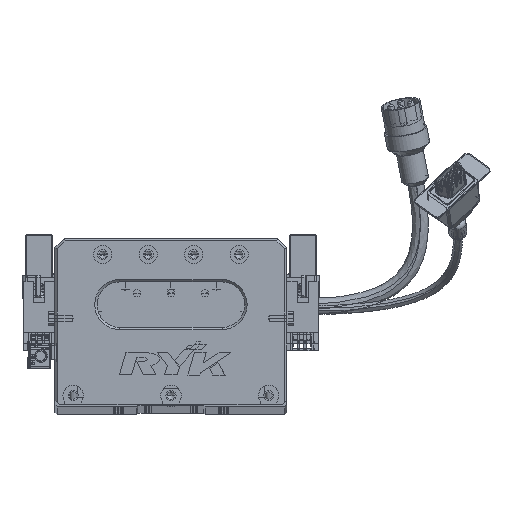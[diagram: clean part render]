
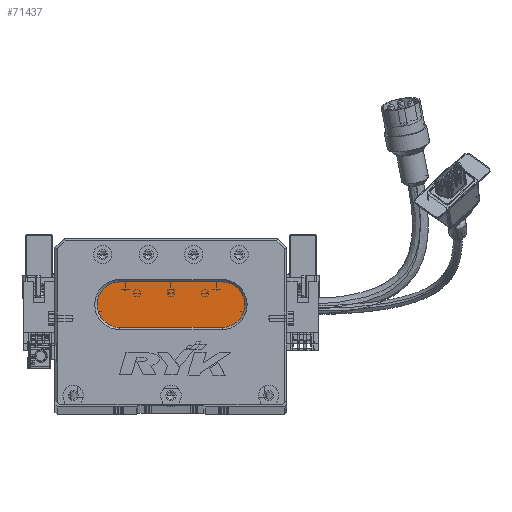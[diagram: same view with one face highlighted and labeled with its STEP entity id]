
A CAD part, top view. The second image highlights one B-rep face of the part: STEP entity #71437.
In plain terms, the highlighted planar face has unit normal (0, 0, 1) as drawn and (0, 0, -1) by its records, which use the part's own axes.
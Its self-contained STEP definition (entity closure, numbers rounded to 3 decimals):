
#2455 = VERTEX_POINT ( 'NONE', #57097 ) ;
#4795 = AXIS2_PLACEMENT_3D ( 'NONE', #56246, #20553, #62177 ) ;
#5416 = PLANE ( 'NONE',  #71275 ) ;
#6692 = ORIENTED_EDGE ( 'NONE', *, *, #9762, .T. ) ;
#6809 = ORIENTED_EDGE ( 'NONE', *, *, #41547, .T. ) ;
#7758 = VERTEX_POINT ( 'NONE', #76808 ) ;
#8181 = EDGE_CURVE ( 'NONE', #2455, #62499, #44562, .T. ) ;
#9762 = EDGE_CURVE ( 'NONE', #24643, #41624, #39768, .T. ) ;
#11897 = DIRECTION ( 'NONE',  ( -1., 0., 0. ) ) ;
#15914 = ORIENTED_EDGE ( 'NONE', *, *, #72068, .T. ) ;
#17178 = FACE_OUTER_BOUND ( 'NONE', #40926, .T. ) ;
#17672 = DIRECTION ( 'NONE',  ( 0., 0., -1. ) ) ;
#19187 = ORIENTED_EDGE ( 'NONE', *, *, #8181, .T. ) ;
#20553 = DIRECTION ( 'NONE',  ( 0., 0., -1. ) ) ;
#22269 = VECTOR ( 'NONE', #36112, 1000. ) ;
#24078 = CARTESIAN_POINT ( 'NONE',  ( 73.5, 44., 13. ) ) ;
#24572 = CARTESIAN_POINT ( 'NONE',  ( 73.5, 44., 13. ) ) ;
#24643 = VERTEX_POINT ( 'NONE', #44849 ) ;
#26557 = CARTESIAN_POINT ( 'NONE',  ( 73.5, 34., 13. ) ) ;
#31926 = AXIS2_PLACEMENT_3D ( 'NONE', #70741, #17672, #58819 ) ;
#33833 = LINE ( 'NONE', #61707, #62723 ) ;
#35780 = DIRECTION ( 'NONE',  ( 0., 0., -1. ) ) ;
#36112 = DIRECTION ( 'NONE',  ( -1., 0., 0. ) ) ;
#38981 = LINE ( 'NONE', #47872, #22269 ) ;
#39768 = CIRCLE ( 'NONE', #66289, 10. ) ;
#40926 = EDGE_LOOP ( 'NONE', ( #6692, #74043, #19187, #15914, #6809 ) ) ;
#41547 = EDGE_CURVE ( 'NONE', #7758, #24643, #33833, .T. ) ;
#41624 = VERTEX_POINT ( 'NONE', #26557 ) ;
#44320 = DIRECTION ( 'NONE',  ( -1., 0., 0. ) ) ;
#44562 = CIRCLE ( 'NONE', #4795, 10. ) ;
#44849 = CARTESIAN_POINT ( 'NONE',  ( 73.5, 54., 13. ) ) ;
#47872 = CARTESIAN_POINT ( 'NONE',  ( 73.5, 34., 13. ) ) ;
#55131 = EDGE_CURVE ( 'NONE', #41624, #2455, #38981, .T. ) ;
#56246 = CARTESIAN_POINT ( 'NONE',  ( 28.5, 44., 13. ) ) ;
#57097 = CARTESIAN_POINT ( 'NONE',  ( 28.5, 34., 13. ) ) ;
#58819 = DIRECTION ( 'NONE',  ( -1., 0., 0. ) ) ;
#61707 = CARTESIAN_POINT ( 'NONE',  ( 73.5, 54., 13. ) ) ;
#61822 = CIRCLE ( 'NONE', #31926, 10. ) ;
#62177 = DIRECTION ( 'NONE',  ( -1., 0., 0. ) ) ;
#62499 = VERTEX_POINT ( 'NONE', #65991 ) ;
#62723 = VECTOR ( 'NONE', #74180, 1000. ) ;
#65991 = CARTESIAN_POINT ( 'NONE',  ( 18.5, 44., 13. ) ) ;
#66160 = DIRECTION ( 'NONE',  ( 0., 0., -1. ) ) ;
#66289 = AXIS2_PLACEMENT_3D ( 'NONE', #24572, #66160, #44320 ) ;
#70741 = CARTESIAN_POINT ( 'NONE',  ( 28.5, 44., 13. ) ) ;
#71275 = AXIS2_PLACEMENT_3D ( 'NONE', #24078, #35780, #11897 ) ;
#71437 = ADVANCED_FACE ( 'NONE', ( #17178 ), #5416, .T. ) ;
#72068 = EDGE_CURVE ( 'NONE', #62499, #7758, #61822, .T. ) ;
#74043 = ORIENTED_EDGE ( 'NONE', *, *, #55131, .T. ) ;
#74180 = DIRECTION ( 'NONE',  ( 1., 0., 0. ) ) ;
#76808 = CARTESIAN_POINT ( 'NONE',  ( 28.5, 54., 13. ) ) ;
